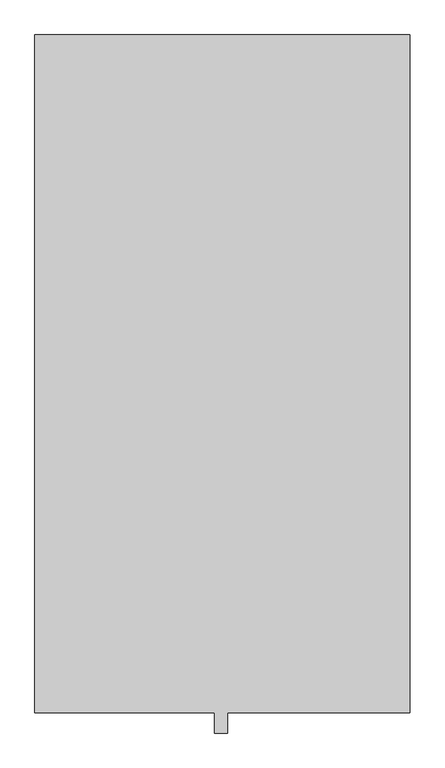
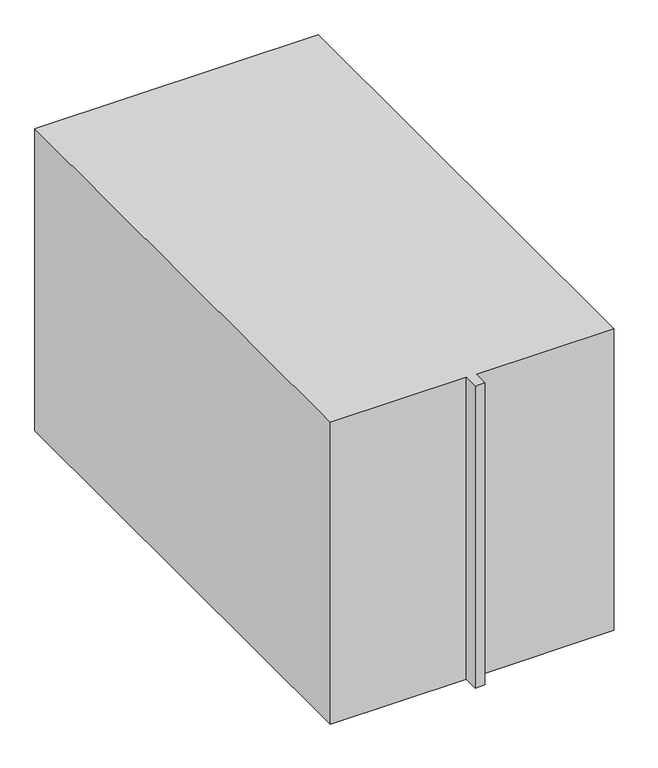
"""IFC4 building model written with IfcOpenShell, lengths in millimetres: proxy geometry."""

from ifc_helpers import new_model, si_unit, origin, origin_with_axes, place, context, project, spatial, polyline, outline, extrude, source, transform, mapped, element, save


def generic_models_8a0a0ac4(model_context):
    return source(origin(), model_context, "Body", "SweptSolid", [
        extrude(outline(polyline([(-108663.1304765, -19900.7903364), (-106443.1304765, -19900.7903364), (-106443.1304765, -23910.7903364), (-107523.1304765, -23910.7903364), (-107523.1304765, -24030.7903364), (-107599.6304765, -24030.7903364), (-107599.6304765, -23910.7903364), (-108663.1304765, -23910.7903364), (-108663.1304765, -19900.7903364)])), origin_with_axes(), (0.0, 0.0, 1.0), 2500.0),
    ])


if __name__ == "__main__":
    model = new_model("IFC4")
    model_context = context("Model", 3, world=origin())
    ifc_project = project(units=[si_unit("LENGTHUNIT", "METRE", prefix="MILLI")], contexts=[model_context])
    site = spatial("IfcSite", under=ifc_project)
    building = spatial("IfcBuilding", under=site)
    placement = place(None, origin())
    generic_models_shape = generic_models_8a0a0ac4(model_context)
    element("IfcBuildingElementProxy", 1, Name="Generic Models", at=placement, inside=building, context=model_context, shape_type="MappedRepresentation", body=[
        mapped(generic_models_shape, transform((0.0, 0.0, 0.0), x_axis=(1.0, 0.0, 0.0), y_axis=(0.0, 1.0, 0.0), z_axis=(0.0, 0.0, 1.0))),
    ])
    save(model, "model.ifc")
